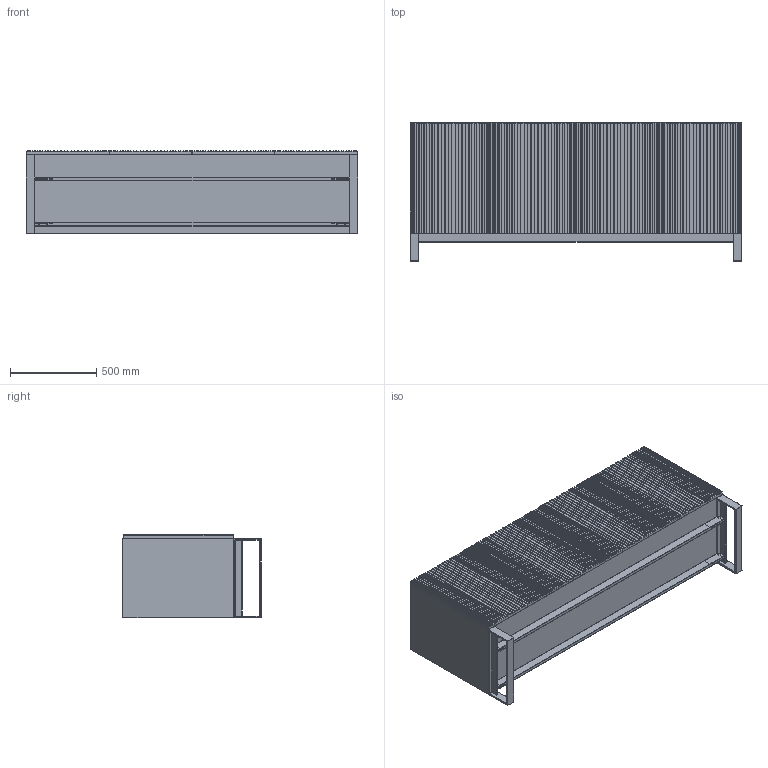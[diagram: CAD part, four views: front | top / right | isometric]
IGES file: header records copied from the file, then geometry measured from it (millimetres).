
Start section: SolidWorks IGES file using analytic representation for surfaces
Global section: file name: C:\Users\Matteo\Desktop\_Horm\_carlos\_collezione carlos\_IGS CARLOS\CARLOS cm 192X49X80H.IGS; native system: SolidWorks 2010; preprocessor: SolidWorks 2010; author: Matteo; date: 160224.161928; units: millimetre
Bounding box: 1920 x 800 x 484 mm (x, y, z)
Surface area: 11506106.1 mm2 (no closed solid volume)
Topology: 0 solids, 0 shells, 1718 faces, 13096 edges, 13088 vertices
Faces by surface type: bspline 1398, revolution 320
